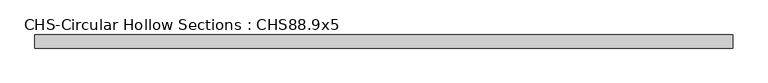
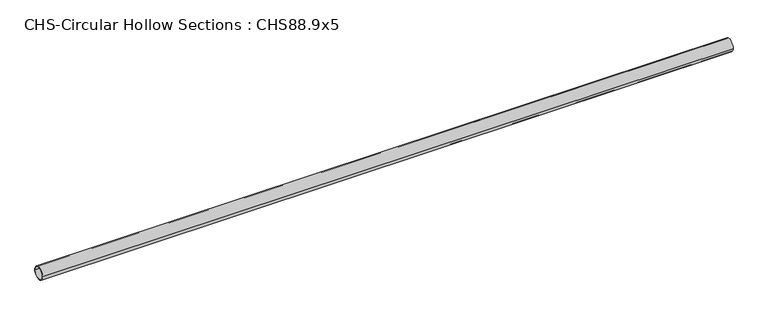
"""IFC4 building model written with IfcOpenShell, lengths in millimetres: beam geometry, CHS-Circular Hollow Sections : CHS88.9x5."""

from ifc_helpers import new_model, si_unit, point, frame, origin, origin_2d, place, context, project, spatial, circle_curve, trimmed, segment, composite_curve, outline, extrude, source, transform, mapped, element, save


def chs_circular_hollow_sections_chs88_9x5_d7b9bca4(model_context):
    return source(origin(), model_context, "Body", "SweptSolid", [
        extrude(outline(composite_curve([segment(trimmed(circle_curve(origin_2d(), 44.45), [point((-44.45, 0.0))], [point((44.45, 0.0))], False, "CARTESIAN"), True, "CONTINUOUS"), segment(trimmed(circle_curve(origin_2d(), 44.45), [point((44.45, 0.0))], [point((-44.45, 0.0))], False, "CARTESIAN"), True, "CONTINUOUS")], self_intersect=False), holes=[composite_curve([segment(trimmed(circle_curve(origin_2d(), 39.45), [point((39.45, 0.0))], [point((-39.45, 0.0))], True, "CARTESIAN"), True, "CONTINUOUS"), segment(trimmed(circle_curve(origin_2d(), 39.45), [point((-39.45, 0.0))], [point((39.45, 0.0))], True, "CARTESIAN"), True, "CONTINUOUS")], self_intersect=False)]), frame((-2537.5, 0.0, 0.0), z_axis=(1.0, 0.0, 0.0), x_axis=(0.0, 1.0, 0.0)), (0.0, 0.0, 1.0), 4716.0),
    ])


if __name__ == "__main__":
    model = new_model("IFC4")
    model_context = context("Model", 3, world=origin())
    ifc_project = project(units=[si_unit("LENGTHUNIT", "METRE", prefix="MILLI")], contexts=[model_context])
    site = spatial("IfcSite", under=ifc_project)
    building = spatial("IfcBuilding", under=site)
    placement = place(None, origin())
    chs_circular_hollow_sections_chs88_9x5_shape = chs_circular_hollow_sections_chs88_9x5_d7b9bca4(model_context)
    element("IfcBeam", 1, ObjectType="CHS-Circular Hollow Sections : CHS88.9x5", at=placement, inside=building, context=model_context, shape_type="MappedRepresentation", body=[
        mapped(chs_circular_hollow_sections_chs88_9x5_shape, transform((0.0, 0.0, 0.0), x_axis=(1.0, 0.0, 0.0), y_axis=(0.0, 1.0, 0.0), z_axis=(0.0, 0.0, 1.0))),
    ])
    save(model, "model.ifc")
